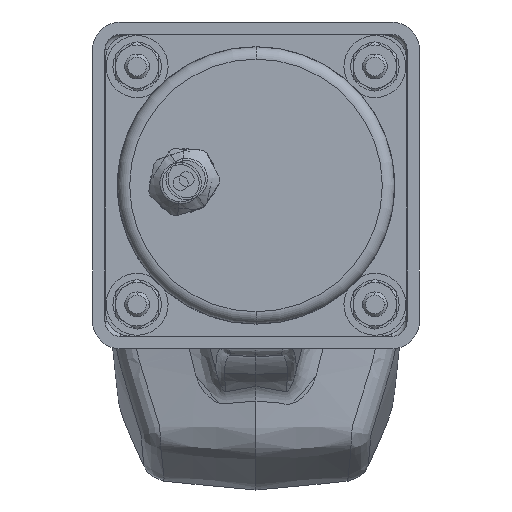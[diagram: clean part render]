
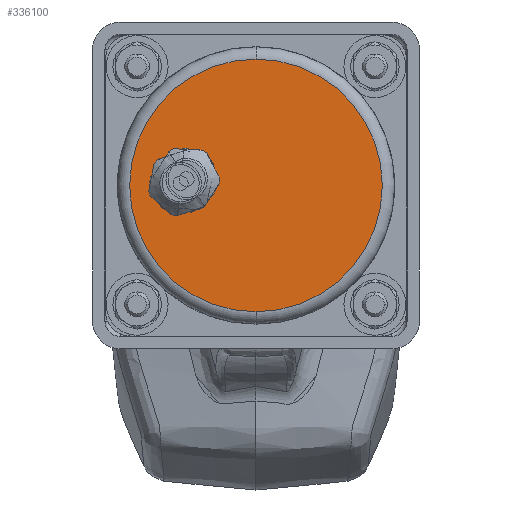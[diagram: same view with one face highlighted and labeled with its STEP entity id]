
A CAD part, front view. The second image highlights one B-rep face of the part: STEP entity #336100.
In plain terms, the highlighted planar face has unit normal (0, -1, 0).
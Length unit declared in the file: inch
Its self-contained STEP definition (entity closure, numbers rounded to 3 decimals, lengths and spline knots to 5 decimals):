
#5175 = ORIENTED_EDGE ( 'NONE', *, *, #285762, .T. ) ;
#11675 = DIRECTION ( 'NONE',  ( 0., -1., 0. ) ) ;
#13427 = DIRECTION ( 'NONE',  ( 0., 0., 1. ) ) ;
#15428 = CARTESIAN_POINT ( 'NONE',  ( 0., 0., 0. ) ) ;
#40044 = PLANE ( 'NONE',  #343263 ) ;
#43228 = DIRECTION ( 'NONE',  ( 0., 0., 1. ) ) ;
#48278 = AXIS2_PLACEMENT_3D ( 'NONE', #15428, #208872, #43228 ) ;
#62591 = VERTEX_POINT ( 'NONE', #231450 ) ;
#66944 = CIRCLE ( 'NONE', #240813, 1.275 ) ;
#115791 = CARTESIAN_POINT ( 'NONE',  ( 0., 0., 1.275 ) ) ;
#159919 = VERTEX_POINT ( 'NONE', #115791 ) ;
#177327 = CARTESIAN_POINT ( 'NONE',  ( 0., 0., 0. ) ) ;
#179089 = DIRECTION ( 'NONE',  ( 0., 1., 0. ) ) ;
#182633 = FACE_OUTER_BOUND ( 'NONE', #275232, .T. ) ;
#205169 = DIRECTION ( 'NONE',  ( 0., 0., 1. ) ) ;
#208872 = DIRECTION ( 'NONE',  ( 0., -1., 0. ) ) ;
#231450 = CARTESIAN_POINT ( 'NONE',  ( 0., 0., -1.275 ) ) ;
#232870 = CIRCLE ( 'NONE', #48278, 1.275 ) ;
#240813 = AXIS2_PLACEMENT_3D ( 'NONE', #177327, #11675, #205169 ) ;
#264568 = ORIENTED_EDGE ( 'NONE', *, *, #314818, .T. ) ;
#275232 = EDGE_LOOP ( 'NONE', ( #264568, #5175 ) ) ;
#285762 = EDGE_CURVE ( 'NONE', #62591, #159919, #232870, .T. ) ;
#314818 = EDGE_CURVE ( 'NONE', #159919, #62591, #66944, .T. ) ;
#336100 = ADVANCED_FACE ( 'NONE', ( #182633 ), #40044, .F. ) ;
#343263 = AXIS2_PLACEMENT_3D ( 'NONE', #344800, #179089, #13427 ) ;
#344800 = CARTESIAN_POINT ( 'NONE',  ( 0., 0., 0. ) ) ;
